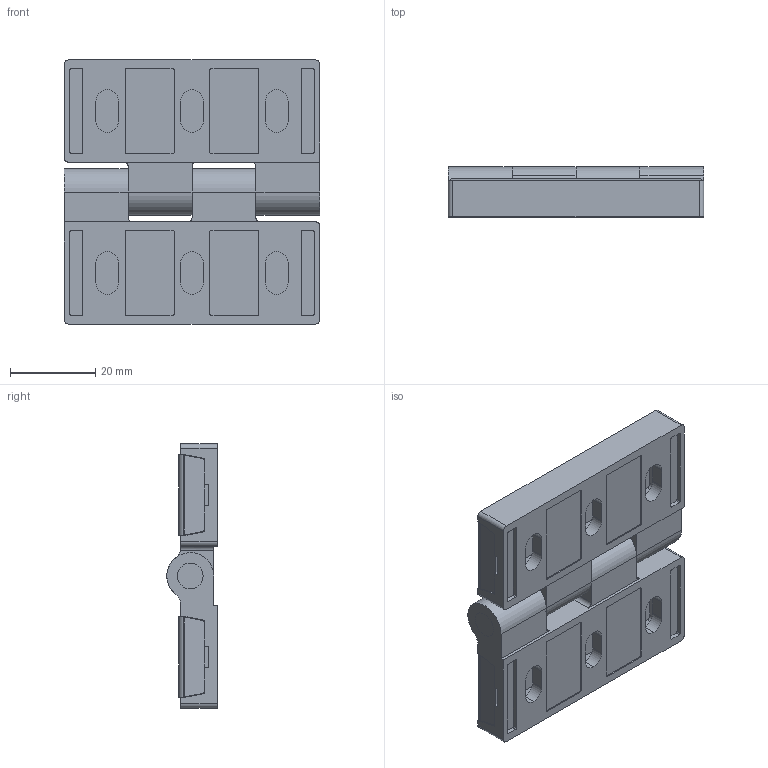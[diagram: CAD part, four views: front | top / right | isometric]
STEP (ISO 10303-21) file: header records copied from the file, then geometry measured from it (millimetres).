
FILE_DESCRIPTION (( 'STEP AP203' ), '1' );
FILE_NAME ('XG02-005-4S-2.STEP', '2025-10-28T05:35:28', ( '微软用户' ), ( '微软中国' ), 'SwSTEP 2.0', 'SolidWorks 2024', '' );
FILE_SCHEMA (( 'CONFIG_CONTROL_DESIGN' ));
Length unit declared in the file: millimetre
Products named in the file (5): XG02-005-4S-2_PART1; XG02-005-4S-2_PART3; XG02-005-4S-2_PART2; XG02-005-4S-2_PART4; XG02-005-4S-2
Assembly tree (5 placements, depth 2):
  XG02-005-4S-2
    XG02-005-4S-2_PART1
    XG02-005-4S-2_PART2
    XG02-005-4S-2_PART3
    XG02-005-4S-2_PART4  x2
Bounding box: 60 x 11.79 x 62 mm (x, y, z)
Volume: 22001.4 mm3; surface area: 20007.9 mm2
Topology: 5 solids, 5 shells, 291 faces, 802 edges, 532 vertices
Faces by surface type: plane 163, cylinder 128
Entity records: 9155 total; most frequent: CARTESIAN_POINT 1645, ORIENTED_EDGE 1480, DIRECTION 1452, EDGE_CURVE 740, VECTOR 494, LINE 494, VERTEX_POINT 492, AXIS2_PLACEMENT_3D 479
